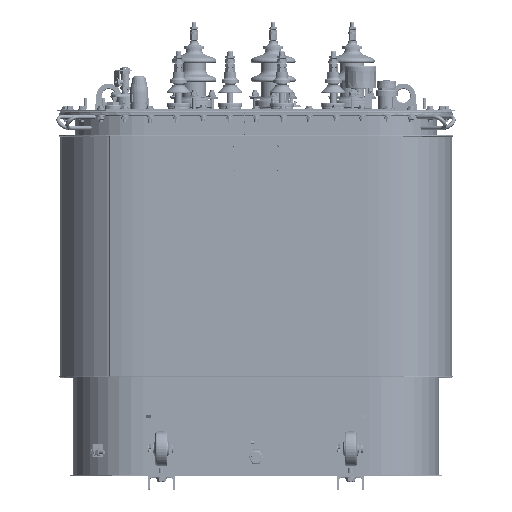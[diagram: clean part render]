
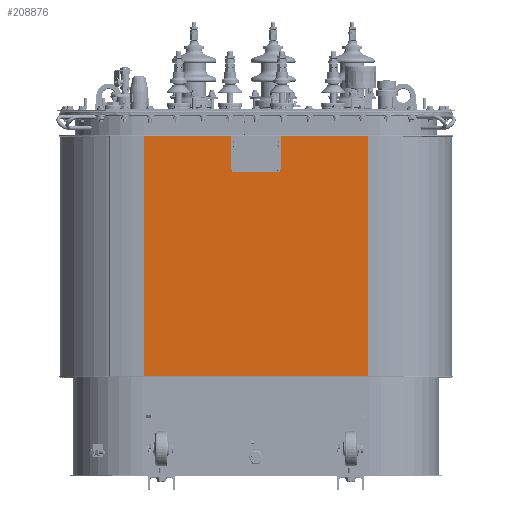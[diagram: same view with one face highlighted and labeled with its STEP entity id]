
A CAD part, top view. The second image highlights one B-rep face of the part: STEP entity #208876.
In plain terms, the highlighted planar face has unit normal (0, 0, -1).
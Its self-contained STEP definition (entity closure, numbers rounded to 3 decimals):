
#23304=LINE('',#432284,#36975);
#23305=LINE('',#432288,#36976);
#23306=LINE('',#432290,#36977);
#23307=LINE('',#432291,#36978);
#36975=VECTOR('',#279909,10.);
#36976=VECTOR('',#279914,10.);
#36977=VECTOR('',#279915,10.);
#36978=VECTOR('',#279916,10.);
#53388=FACE_OUTER_BOUND('',#66875,.T.);
#66875=EDGE_LOOP('',(#179759,#179760,#179761,#179762));
#93761=VERTEX_POINT('',#432281);
#93762=VERTEX_POINT('',#432283);
#93763=VERTEX_POINT('',#432287);
#93764=VERTEX_POINT('',#432289);
#122435=EDGE_CURVE('',#93761,#93762,#23304,.T.);
#122437=EDGE_CURVE('',#93763,#93761,#23305,.T.);
#122438=EDGE_CURVE('',#93763,#93764,#23306,.T.);
#122439=EDGE_CURVE('',#93764,#93762,#23307,.T.);
#179759=ORIENTED_EDGE('',*,*,#122437,.F.);
#179760=ORIENTED_EDGE('',*,*,#122438,.T.);
#179761=ORIENTED_EDGE('',*,*,#122439,.T.);
#179762=ORIENTED_EDGE('',*,*,#122435,.F.);
#185540=PLANE('',#228100);
#208876=ADVANCED_FACE('',(#53388),#185540,.F.);
#228100=AXIS2_PLACEMENT_3D('',#432286,#279912,#279913);
#279909=DIRECTION('',(0.,1.,0.));
#279912=DIRECTION('center_axis',(0.,0.,1.));
#279913=DIRECTION('ref_axis',(1.,0.,0.));
#279914=DIRECTION('',(1.,0.,0.));
#279915=DIRECTION('',(0.,1.,0.));
#279916=DIRECTION('',(1.,0.,0.));
#432281=CARTESIAN_POINT('',(325.,285.,381.5));
#432283=CARTESIAN_POINT('',(325.,985.,381.5));
#432284=CARTESIAN_POINT('',(325.,285.,381.5));
#432286=CARTESIAN_POINT('Origin',(-325.,285.,381.5));
#432287=CARTESIAN_POINT('',(-325.,285.,381.5));
#432288=CARTESIAN_POINT('',(-325.,285.,381.5));
#432289=CARTESIAN_POINT('',(-325.,985.,381.5));
#432290=CARTESIAN_POINT('',(-325.,285.,381.5));
#432291=CARTESIAN_POINT('',(-325.,985.,381.5));
